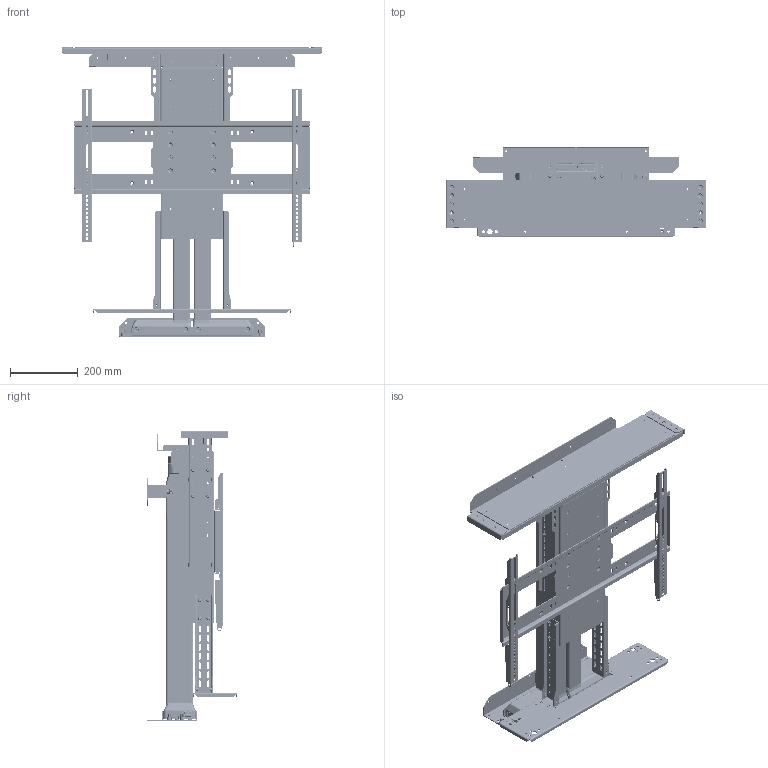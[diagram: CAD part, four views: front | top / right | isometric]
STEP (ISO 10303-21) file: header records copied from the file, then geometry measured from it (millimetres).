
FILE_DESCRIPTION(/* description */ ('STEP AP242','CAx-IF Rec.Pracs.---Representation and Presentation of Product Manufacturing Information (PMI)---4.0---2014-10-13','CAx-IF Rec.Pracs.---3D Tessellated Geometry---0.4---2014-09-14','2;1'),/* implementation_level */ '2;1');
FILE_NAME(/* name */ '65523c2b9b98ac61b84e0d3a',/* time_stamp */ '2023-11-13T15:09:36Z',/* author */ (''),/* organization */ (''),/* preprocessor_version */ 'ST-DEVELOPER v19.4',/* originating_system */ ' ',/* authorisation */ ' ');
FILE_SCHEMA (('AP242_MANAGED_MODEL_BASED_3D_ENGINEERING_MIM_LF { 1 0 10303 442 1 1 4 }'));
Products named in the file (90): DL-65en/s (HD); Socket button head screw M6x1 x 12; Hex socket countersunk head screw M6x1 x 12; Socket button head screw M6x1 x 16; WDS8151-215; ULS-NX-032 - HD Quick Release LC Mount; ULS-NX-029 - HD Column Clamp; L65 PS Adapter; Lift Column H <1>; L45 LC Inner Profile; L45 LC Motor Housing; L45 LC Middle Profile; Lift Column H <2>; ULS-NX-103 - ULS EN HD REAR SUPPORT WELDMENT <1>; ULS-NX-103 - ULS EN REAR SUPPORT; PEM FHS-M6-12  ; ULS-NX-013 -- L77OPU SS 013  - Rev B; ULS-NX-036 - ULS EN HD QR Base Mount <1>; ULS-NX-036 - ULS EN HD QR Base Mount; DL-65en 033 Lower Brkt Asm <1>; PEM CLS-M6-1  ; ULS-NX-016 - UL ACCESSORY PLATE; ULS-NX-033 -- L77OPU SS 033 - Rev B; SS Fixed Short - Rev B2 <1>; PEM CLS-M6-1; PEM Nut F-M4-2; PS Screen Support Fixed 01; PEM Nut CLSS-M5-1; MSHD Assm - Rev E9 <1>; M6x14 Button Socket Cap; MSHD Upper Assembly <1>; Spring 01; 93625A250_18-8 Stainless Steel Nylon-Insert Locknut; OTTO SERIES B2 SWITCH(2019); Ball Bearing 375; M2x8 92000A015_Passivated 18-8 Stainless Steel Pan Head Phillips Scre
ws; CP Washer 01; M2 Split Lock Washer; CP Plate Outer; Bushing 01 ...
Assembly tree (278 placements, depth 5):
  DL-65en/s (HD)
    Socket button head screw M6x1 x 12  x20
    Hex socket countersunk head screw M6x1 x 12  x17
    Socket button head screw M6x1 x 16  x4
    WDS8151-215  x6
    ULS-NX-032 - HD Quick Release LC Mount
    ULS-NX-029 - HD Column Clamp
    L65 PS Adapter
    Lift Column H <1>
      L45 LC Inner Profile
      L45 LC Motor Housing
      L45 LC Middle Profile
    Lift Column H <2>
      L45 LC Middle Profile
      L45 LC Motor Housing
      L45 LC Inner Profile
    ULS-NX-103 - ULS EN HD REAR SUPPORT WELDMENT <1>
      ULS-NX-103 - ULS EN REAR SUPPORT  x2
      PEM FHS-M6-12    x2
    ULS-NX-013 -- L77OPU SS 013  - Rev B
    ULS-NX-036 - ULS EN HD QR Base Mount <1>
      PEM FHS-M6-12    x4
      ULS-NX-036 - ULS EN HD QR Base Mount
    DL-65en 033 Lower Brkt Asm <1>
      PEM CLS-M6-1    x8
      ULS-NX-016 - UL ACCESSORY PLATE
      Hex socket countersunk head screw M6x1 x 12  x4
      ULS-NX-033 -- L77OPU SS 033 - Rev B  x2
    SS Fixed Short - Rev B2 <1>
      PEM CLS-M6-1  x42
      PEM Nut F-M4-2  x8
      PS Screen Support Fixed 01
      PEM Nut CLSS-M5-1  x2
      L65 PS Adapter
    MSHD Assm - Rev E9 <1>
      M6x14 Button Socket Cap  x12
      MSHD Upper Assembly <1>
        Spring 01  x8
        93625A250_18-8 Stainless Steel Nylon-Insert Locknut
        OTTO SERIES B2 SWITCH(2019)
        Ball Bearing 375
        M2x8 92000A015_Passivated 18-8 Stainless Steel Pan Head Phillips Scre
ws  x2
        CP Washer 01  x3
        M2 Split Lock Washer  x2
        93625A250_18-8 Stainless Steel Nylon-Insert Locknut
        CP Plate Outer  x2
        Bushing 01
        1_8 Ball
        Detent Socket
        MSHD Bottom Half
        OTTO SERIES B2 SWITCH(2019)
        Disc Spring
        MSHD Thrust Plate
        M6 Bolt Flathead
        CP Plate Inner  x2
        3726N125_Corrosion-Resistant Stacked Wave Disc Spring
        MSHD Top Half
      MSHD Base Plate <1>
        Alignment Pin  x2
        L-75ix SWIVEL SWITCH CABLE _1_
Bounding box: 768.1 x 268.61 x 858.71 mm (x, y, z)
Volume: 17793164.5 mm3; surface area: 3580999.5 mm2
Topology: 261 solids, 261 shells, 14212 faces, 37052 edges, 23875 vertices
Faces by surface type: plane 8670, cylinder 3333, cone 1100, bspline 693, torus 346, sphere 70
Full cylindrical faces by diameter (mm): 1.194 x2, 1.208 x1, 1.473 x3, 1.552 x1, 1.575 x2, 1.6 x2, 1.956 x8, 2.235 x1, 2.642 x4, 2.794 x1, 3.048 x2, 3.175 x1, 3.505 x7, 3.683 x1, 4 x8, 4.496 x6, 4.6 x4, 4.75 x1, 4.917 x64, 4.978 x4, 5 x46, 5.026 x4, 5.08 x10, 5.277 x8, 5.3 x12, 5.385 x12, 5.41 x8, 5.6 x8, 5.944 x4, 5.994 x4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
Entity records: 156198 total; most frequent: CARTESIAN_POINT 39495, DIRECTION 22939, ORIENTED_EDGE 22130, EDGE_CURVE 11065, AXIS2_PLACEMENT_3D 8204, VERTEX_POINT 7471, LINE 6531, VECTOR 6531
